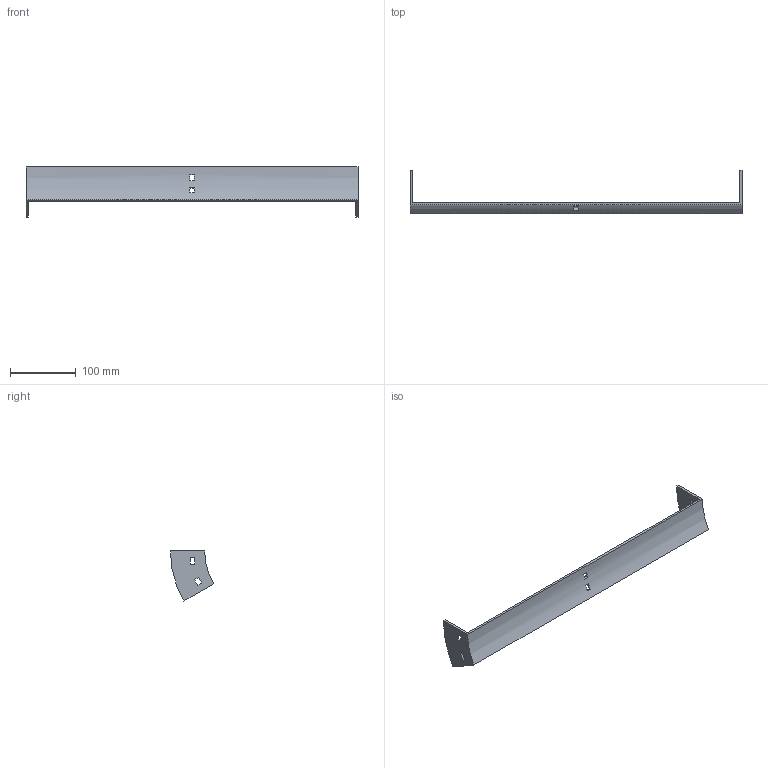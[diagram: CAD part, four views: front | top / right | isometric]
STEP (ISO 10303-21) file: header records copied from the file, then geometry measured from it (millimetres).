
FILE_DESCRIPTION (( 'STEP AP214' ), '1' );
FILE_NAME ('35B1B500.step', '2025-02-21T09:25:36', ( '' ), ( '' ), 'SwSTEP 2.0', 'SolidWorks 2023', '' );
FILE_SCHEMA (( 'AUTOMOTIVE_DESIGN' ));
Length unit declared in the file: millimetre
Products named in the file (1): 35B1B500
Bounding box: 504 x 65.4 x 76 mm (x, y, z)
Volume: 115293.1 mm3; surface area: 71335.5 mm2
Topology: 1 solids, 1 shells, 34 faces, 96 edges, 64 vertices
Faces by surface type: plane 30, cylinder 4
Entity records: 1143 total; most frequent: CARTESIAN_POINT 195, ORIENTED_EDGE 192, DIRECTION 182, EDGE_CURVE 96, VECTOR 80, LINE 80, VERTEX_POINT 64, AXIS2_PLACEMENT_3D 51
